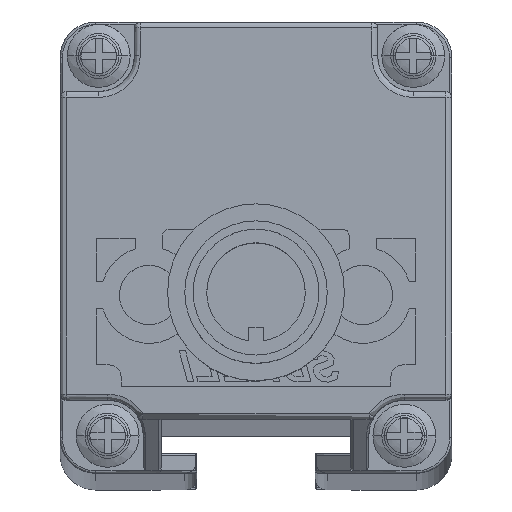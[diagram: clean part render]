
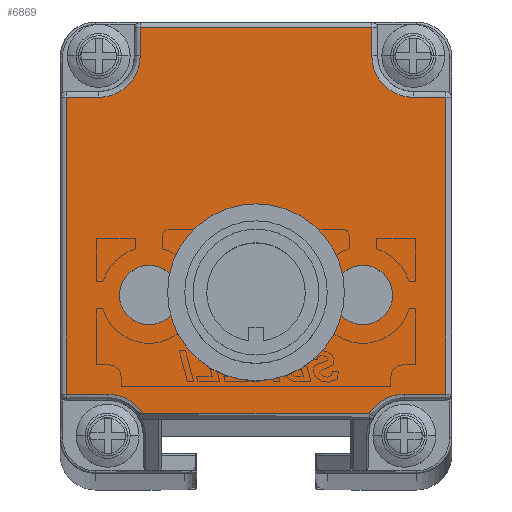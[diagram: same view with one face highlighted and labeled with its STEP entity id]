
A CAD part, top view. The second image highlights one B-rep face of the part: STEP entity #6869.
In plain terms, the highlighted planar face has unit normal (0, 0, 1).
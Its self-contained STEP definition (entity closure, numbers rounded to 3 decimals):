
#2781=CARTESIAN_POINT('',(0.65,-8.054,
685.276));
#2782=DIRECTION('',(0.,0.,1.));
#2783=DIRECTION('',(1.,0.,0.));
#2784=AXIS2_PLACEMENT_3D('',#2781,#2782,#2783);
#2786=CARTESIAN_POINT('',(0.65,-8.054,
685.276));
#2787=DIRECTION('',(0.,0.,1.));
#2788=DIRECTION('',(-1.,0.,0.));
#2789=AXIS2_PLACEMENT_3D('',#2786,#2787,#2788);
#2791=CARTESIAN_POINT('',(9.65,-8.055,685.276));
#2792=DIRECTION('',(0.,0.,1.));
#2793=DIRECTION('',(1.,-0.007,0.));
#2794=AXIS2_PLACEMENT_3D('',#2791,#2792,#2793);
#2796=CARTESIAN_POINT('',(9.65,-8.055,685.276));
#2797=DIRECTION('',(0.,0.,1.));
#2798=DIRECTION('',(-1.,0.007,0.));
#2799=AXIS2_PLACEMENT_3D('',#2796,#2797,#2798);
#2801=CARTESIAN_POINT('',(-8.35,-8.054,
685.276));
#2802=DIRECTION('',(0.,0.,1.));
#2803=DIRECTION('',(1.,0.007,0.));
#2804=AXIS2_PLACEMENT_3D('',#2801,#2802,#2803);
#2806=CARTESIAN_POINT('',(-8.35,-8.054,
685.276));
#2807=DIRECTION('',(0.,0.,1.));
#2808=DIRECTION('',(-1.,-0.007,0.));
#2809=AXIS2_PLACEMENT_3D('',#2806,#2807,#2808);
#2811=CARTESIAN_POINT('',(-11.85,-19.904,
685.276));
#2812=DIRECTION('',(0.,0.,1.));
#2813=DIRECTION('',(0.849,0.528,0.));
#2814=AXIS2_PLACEMENT_3D('',#2811,#2812,#2813);
#2816=CARTESIAN_POINT('',(-12.6,12.094,685.276));
#2817=DIRECTION('',(0.,0.,1.));
#2818=DIRECTION('',(0.,-1.,0.));
#2819=AXIS2_PLACEMENT_3D('',#2816,#2817,#2818);
#2821=CARTESIAN_POINT('',(13.9,12.094,685.276));
#2822=DIRECTION('',(0.,0.,1.));
#2823=DIRECTION('',(-1.,0.,0.));
#2824=AXIS2_PLACEMENT_3D('',#2821,#2822,#2823);
#2826=CARTESIAN_POINT('',(13.15,-19.904,685.276));
#2827=DIRECTION('',(0.,0.,1.));
#2828=DIRECTION('',(0.,1.,0.));
#2829=AXIS2_PLACEMENT_3D('',#2826,#2827,#2828);
#4545=DIRECTION('',(1.,0.,0.));
#4546=VECTOR('',#4545,19.056);
#4547=CARTESIAN_POINT('',(-8.878,-18.056,
685.276));
#4548=LINE('',#4547,#4546);
#4928=DIRECTION('',(0.,1.,0.));
#4929=VECTOR('',#4928,24.998);
#4930=CARTESIAN_POINT('',(16.65,-16.404,685.276));
#4931=LINE('',#4930,#4929);
#4951=DIRECTION('',(1.,0.,0.));
#4952=VECTOR('',#4951,3.5);
#4953=CARTESIAN_POINT('',(13.15,-16.404,685.276));
#4954=LINE('',#4953,#4952);
#4975=DIRECTION('',(-1.,0.,0.));
#4976=VECTOR('',#4975,2.75);
#4977=CARTESIAN_POINT('',(16.65,8.594,685.276));
#4978=LINE('',#4977,#4976);
#5002=DIRECTION('',(0.,1.,0.));
#5003=VECTOR('',#5002,2.35);
#5004=CARTESIAN_POINT('',(10.4,12.094,685.276));
#5005=LINE('',#5004,#5003);
#5213=DIRECTION('',(-1.,0.,0.));
#5214=VECTOR('',#5213,19.5);
#5215=CARTESIAN_POINT('',(10.4,14.444,685.276));
#5216=LINE('',#5215,#5214);
#5252=DIRECTION('',(0.,-1.,0.));
#5253=VECTOR('',#5252,2.35);
#5254=CARTESIAN_POINT('',(-9.1,14.444,685.276));
#5255=LINE('',#5254,#5253);
#5279=DIRECTION('',(-1.,0.,0.));
#5280=VECTOR('',#5279,2.75);
#5281=CARTESIAN_POINT('',(-12.6,8.594,685.276));
#5282=LINE('',#5281,#5280);
#5450=DIRECTION('',(0.,-1.,0.));
#5451=VECTOR('',#5450,24.998);
#5452=CARTESIAN_POINT('',(-15.35,8.594,685.276));
#5453=LINE('',#5452,#5451);
#5489=DIRECTION('',(1.,0.,0.));
#5490=VECTOR('',#5489,3.5);
#5491=CARTESIAN_POINT('',(-15.35,-16.404,
685.276));
#5492=LINE('',#5491,#5490);
#5953=CARTESIAN_POINT('',(12.15,-8.072,685.276));
#5954=VERTEX_POINT('',#5953);
#5955=CARTESIAN_POINT('',(7.15,-8.039,685.276));
#5956=VERTEX_POINT('',#5955);
#5957=CARTESIAN_POINT('',(-8.878,-18.056,
685.276));
#5958=CARTESIAN_POINT('',(-11.85,-16.404,
685.276));
#5959=VERTEX_POINT('',#5957);
#5960=VERTEX_POINT('',#5958);
#5961=CARTESIAN_POINT('',(-15.35,-16.404,
685.276));
#5962=VERTEX_POINT('',#5961);
#5963=CARTESIAN_POINT('',(-15.35,8.594,685.276));
#5964=VERTEX_POINT('',#5963);
#5965=CARTESIAN_POINT('',(-12.6,8.594,685.276));
#5966=VERTEX_POINT('',#5965);
#5967=CARTESIAN_POINT('',(-9.1,12.094,685.276));
#5968=VERTEX_POINT('',#5967);
#5969=CARTESIAN_POINT('',(-9.1,14.444,685.276));
#5970=VERTEX_POINT('',#5969);
#5971=CARTESIAN_POINT('',(10.4,14.444,685.276));
#5972=VERTEX_POINT('',#5971);
#5973=CARTESIAN_POINT('',(10.4,12.094,685.276));
#5974=VERTEX_POINT('',#5973);
#5975=CARTESIAN_POINT('',(13.9,8.594,685.276));
#5976=VERTEX_POINT('',#5975);
#5977=CARTESIAN_POINT('',(16.65,8.594,685.276));
#5978=VERTEX_POINT('',#5977);
#5979=CARTESIAN_POINT('',(16.65,-16.404,685.276));
#5980=VERTEX_POINT('',#5979);
#5981=CARTESIAN_POINT('',(13.15,-16.404,685.276));
#5982=VERTEX_POINT('',#5981);
#5983=CARTESIAN_POINT('',(10.178,-18.056,685.276));
#5984=VERTEX_POINT('',#5983);
#5985=CARTESIAN_POINT('',(-5.85,-8.037,
685.276));
#5986=CARTESIAN_POINT('',(-10.85,-8.07,
685.276));
#5987=VERTEX_POINT('',#5985);
#5988=VERTEX_POINT('',#5986);
#5989=CARTESIAN_POINT('',(3.65,-8.054,685.276));
#5990=CARTESIAN_POINT('',(-2.35,-8.054,
685.276));
#5991=VERTEX_POINT('',#5989);
#5992=VERTEX_POINT('',#5990);
#6818=CARTESIAN_POINT('',(0.65,0.944,
685.276));
#6819=DIRECTION('',(0.,0.,1.));
#6820=DIRECTION('',(1.,0.,0.));
#6821=AXIS2_PLACEMENT_3D('',#6818,#6819,#6820);
#6822=PLANE('',#6821);
#6824=ORIENTED_EDGE('',*,*,#6823,.T.);
#6826=ORIENTED_EDGE('',*,*,#6825,.F.);
#6828=ORIENTED_EDGE('',*,*,#6827,.F.);
#6830=ORIENTED_EDGE('',*,*,#6829,.F.);
#6832=ORIENTED_EDGE('',*,*,#6831,.T.);
#6834=ORIENTED_EDGE('',*,*,#6833,.F.);
#6836=ORIENTED_EDGE('',*,*,#6835,.F.);
#6838=ORIENTED_EDGE('',*,*,#6837,.F.);
#6840=ORIENTED_EDGE('',*,*,#6839,.T.);
#6842=ORIENTED_EDGE('',*,*,#6841,.F.);
#6844=ORIENTED_EDGE('',*,*,#6843,.F.);
#6846=ORIENTED_EDGE('',*,*,#6845,.F.);
#6848=ORIENTED_EDGE('',*,*,#6847,.T.);
#6850=ORIENTED_EDGE('',*,*,#6849,.F.);
#6851=EDGE_LOOP('',(#6824,#6826,#6828,#6830,#6832,#6834,#6836,#6838,#6840,#6842,
#6844,#6846,#6848,#6850));
#6852=FACE_OUTER_BOUND('',#6851,.F.);
#6853=ORIENTED_EDGE('',*,*,#6805,.T.);
#6854=ORIENTED_EDGE('',*,*,#6766,.T.);
#6855=EDGE_LOOP('',(#6853,#6854));
#6856=FACE_BOUND('',#6855,.F.);
#6858=ORIENTED_EDGE('',*,*,#6857,.T.);
#6860=ORIENTED_EDGE('',*,*,#6859,.T.);
#6861=EDGE_LOOP('',(#6858,#6860));
#6862=FACE_BOUND('',#6861,.F.);
#6864=ORIENTED_EDGE('',*,*,#6863,.T.);
#6866=ORIENTED_EDGE('',*,*,#6865,.T.);
#6867=EDGE_LOOP('',(#6864,#6866));
#6868=FACE_BOUND('',#6867,.F.);
#2785=CIRCLE('',#2784,3.);
#2790=CIRCLE('',#2789,3.);
#2795=CIRCLE('',#2794,2.5);
#2800=CIRCLE('',#2799,2.5);
#2805=CIRCLE('',#2804,2.5);
#2810=CIRCLE('',#2809,2.5);
#2815=CIRCLE('',#2814,3.5);
#2820=CIRCLE('',#2819,3.5);
#2825=CIRCLE('',#2824,3.5);
#2830=CIRCLE('',#2829,3.5);
#6766=EDGE_CURVE('',#5956,#5954,#2800,.T.);
#6805=EDGE_CURVE('',#5954,#5956,#2795,.T.);
#6823=EDGE_CURVE('',#5959,#5960,#2815,.T.);
#6825=EDGE_CURVE('',#5962,#5960,#5492,.T.);
#6827=EDGE_CURVE('',#5964,#5962,#5453,.T.);
#6829=EDGE_CURVE('',#5966,#5964,#5282,.T.);
#6831=EDGE_CURVE('',#5966,#5968,#2820,.T.);
#6833=EDGE_CURVE('',#5970,#5968,#5255,.T.);
#6835=EDGE_CURVE('',#5972,#5970,#5216,.T.);
#6837=EDGE_CURVE('',#5974,#5972,#5005,.T.);
#6839=EDGE_CURVE('',#5974,#5976,#2825,.T.);
#6841=EDGE_CURVE('',#5978,#5976,#4978,.T.);
#6843=EDGE_CURVE('',#5980,#5978,#4931,.T.);
#6845=EDGE_CURVE('',#5982,#5980,#4954,.T.);
#6847=EDGE_CURVE('',#5982,#5984,#2830,.T.);
#6849=EDGE_CURVE('',#5959,#5984,#4548,.T.);
#6857=EDGE_CURVE('',#5987,#5988,#2805,.T.);
#6859=EDGE_CURVE('',#5988,#5987,#2810,.T.);
#6863=EDGE_CURVE('',#5991,#5992,#2785,.T.);
#6865=EDGE_CURVE('',#5992,#5991,#2790,.T.);
#6869=ADVANCED_FACE('',(#6852,#6856,#6862,#6868),#6822,.T.);
